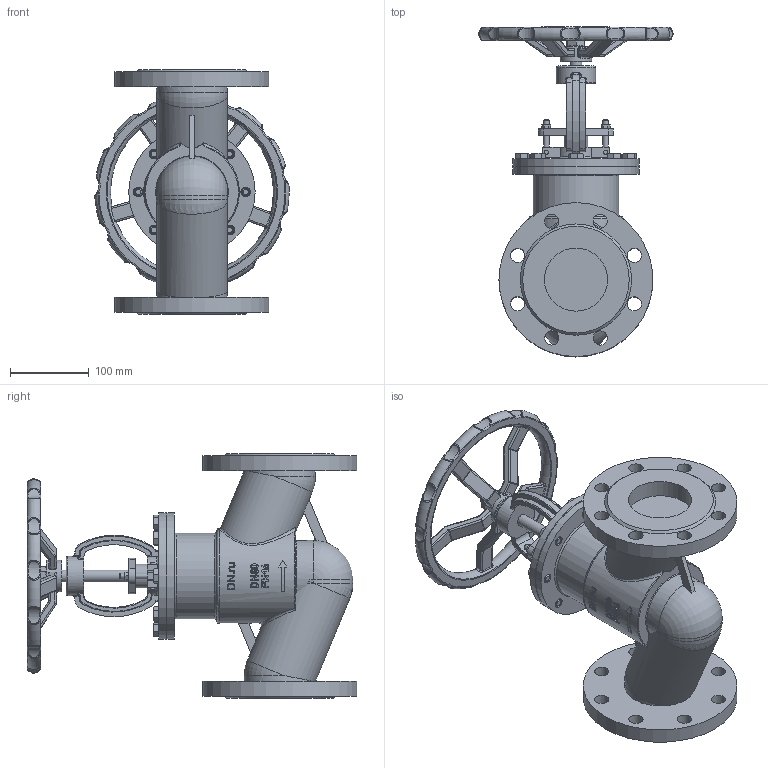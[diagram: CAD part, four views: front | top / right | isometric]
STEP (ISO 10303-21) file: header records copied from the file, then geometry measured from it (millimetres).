
FILE_DESCRIPTION(('STEP AP203'), '1');
FILE_NAME('VSO3131M-F-S 孰囡囗 玎镱痦 DN.ru 捏80 畜16', '2026-04-16T20:34:20', ('R2D2'), (''), 'C3D Converter', 'C3D Toolkit', '');
FILE_SCHEMA(('CONFIG_CONTROL_DESIGN'));
Length unit declared in the file: millimetre
Products named in the file (1): VSO3131M-F-S
Bounding box: 246.19 x 417.5 x 310 mm (x, y, z)
Volume: 4984056.9 mm3; surface area: 448329.8 mm2
Topology: 1 solids, 1 shells, 1152 faces, 2740 edges, 1637 vertices
Faces by surface type: plane 367, cylinder 246, torus 159, extrusion 130, cone 99, bspline 79, sphere 72
Full cylindrical faces by diameter (mm): 5 x4, 7 x4, 10 x8, 12 x8, 15 x3, 16 x8, 18 x17, 30 x1, 40 x1, 50 x1, 80 x2, 90 x3, 108 x1, 160 x2, 195 x2
Entity records: 72770 total; most frequent: CARTESIAN_POINT 38412, ORIENTED_EDGE 5236, DIRECTION 4866, EDGE_CURVE 2618, AXIS2_PLACEMENT_3D 1930, VERTEX_POINT 1633, EDGE_LOOP 1373, FACE_BOUND 1205
